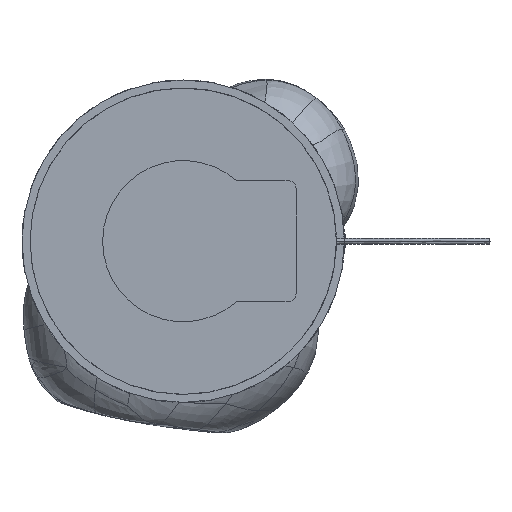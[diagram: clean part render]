
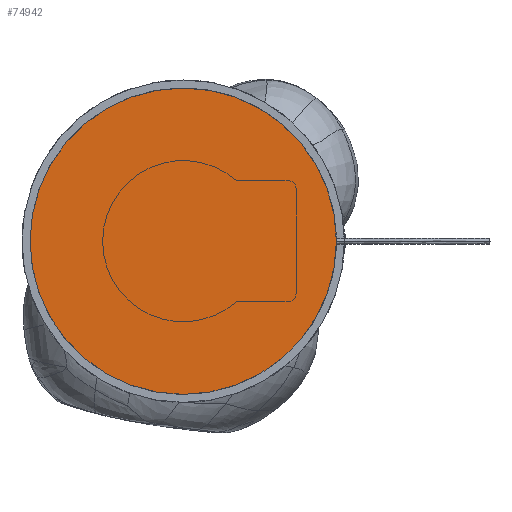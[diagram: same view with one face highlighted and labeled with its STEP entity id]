
A CAD part, front view. The second image highlights one B-rep face of the part: STEP entity #74942.
In plain terms, the highlighted planar face has unit normal (0, -1, 0) as drawn and (0, 0, 1) by its records, which use the part's own axes.
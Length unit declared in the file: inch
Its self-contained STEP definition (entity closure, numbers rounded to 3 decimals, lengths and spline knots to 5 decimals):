
#4194 = EDGE_CURVE ( 'NONE', #134755, #29569, #110964, .T. ) ;
#6862 = EDGE_CURVE ( 'NONE', #29569, #134755, #154396, .T. ) ;
#23416 = DIRECTION ( 'NONE',  ( 1., 0., 0. ) ) ;
#29569 = VERTEX_POINT ( 'NONE', #217094 ) ;
#53165 = AXIS2_PLACEMENT_3D ( 'NONE', #168651, #117718, #186745 ) ;
#53437 = CARTESIAN_POINT ( 'NONE',  ( -1.42387, -1.33946, 0.125 ) ) ;
#74942 = ADVANCED_FACE ( 'NONE', ( #165854 ), #114923, .T. ) ;
#78505 = AXIS2_PLACEMENT_3D ( 'NONE', #53437, #104351, #173360 ) ;
#81094 = ORIENTED_EDGE ( 'NONE', *, *, #6862, .T. ) ;
#91536 = AXIS2_PLACEMENT_3D ( 'NONE', #110496, #217835, #23416 ) ;
#104351 = DIRECTION ( 'NONE',  ( 0., 0., 1. ) ) ;
#110496 = CARTESIAN_POINT ( 'NONE',  ( -1.42387, -1.33946, 0.125 ) ) ;
#110964 = CIRCLE ( 'NONE', #53165, 4.75 ) ;
#114923 = PLANE ( 'NONE',  #91536 ) ;
#117718 = DIRECTION ( 'NONE',  ( 0., 0., 1. ) ) ;
#134755 = VERTEX_POINT ( 'NONE', #205540 ) ;
#154396 = CIRCLE ( 'NONE', #78505, 4.75 ) ;
#165854 = FACE_OUTER_BOUND ( 'NONE', #170188, .T. ) ;
#168651 = CARTESIAN_POINT ( 'NONE',  ( -1.42387, -1.33946, 0.125 ) ) ;
#170188 = EDGE_LOOP ( 'NONE', ( #183027, #81094 ) ) ;
#173360 = DIRECTION ( 'NONE',  ( 1., 0., 0. ) ) ;
#183027 = ORIENTED_EDGE ( 'NONE', *, *, #4194, .T. ) ;
#186745 = DIRECTION ( 'NONE',  ( 1., 0., 0. ) ) ;
#205540 = CARTESIAN_POINT ( 'NONE',  ( -6.17387, -1.33946, 0.125 ) ) ;
#217094 = CARTESIAN_POINT ( 'NONE',  ( 3.32613, -1.33946, 0.125 ) ) ;
#217835 = DIRECTION ( 'NONE',  ( 0., 0., 1. ) ) ;
